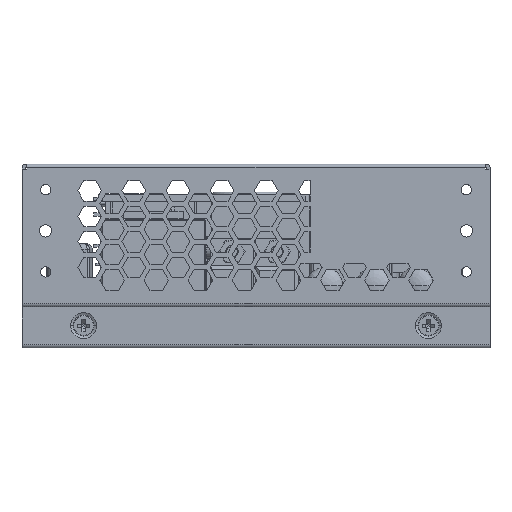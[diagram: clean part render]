
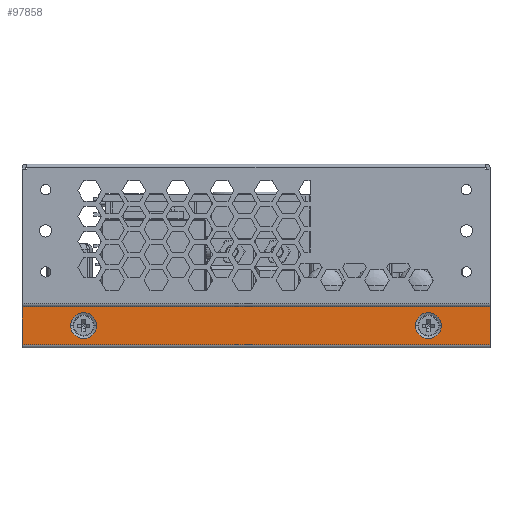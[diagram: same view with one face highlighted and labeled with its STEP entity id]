
A CAD part, front view. The second image highlights one B-rep face of the part: STEP entity #97858.
In plain terms, the highlighted planar face has unit normal (0, -1, 0).
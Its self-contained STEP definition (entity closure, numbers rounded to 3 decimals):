
#96864=DIRECTION('',(0.,0.,-1.));
#96865=VECTOR('',#96864,9.2);
#96866=CARTESIAN_POINT('',(107.9,-6.8,4.1));
#96867=LINE('',#96866,#96865);
#96868=DIRECTION('',(0.,0.,1.));
#96869=VECTOR('',#96868,9.2);
#96870=CARTESIAN_POINT('',(-6.,-6.8,-5.1));
#96871=LINE('',#96870,#96869);
#96872=DIRECTION('',(1.,0.,0.));
#96873=VECTOR('',#96872,113.9);
#96874=CARTESIAN_POINT('',(-6.,-6.8,4.1));
#96875=LINE('',#96874,#96873);
#96876=CARTESIAN_POINT('',(9.,-6.8,-0.5));
#96877=DIRECTION('',(0.,-1.,0.));
#96878=DIRECTION('',(1.,0.,0.));
#96879=AXIS2_PLACEMENT_3D('',#96876,#96877,#96878);
#96881=CARTESIAN_POINT('',(9.,-6.8,-0.5));
#96882=DIRECTION('',(0.,-1.,0.));
#96883=DIRECTION('',(0.,0.,1.));
#96884=AXIS2_PLACEMENT_3D('',#96881,#96882,#96883);
#96886=CARTESIAN_POINT('',(9.,-6.8,-0.5));
#96887=DIRECTION('',(0.,-1.,0.));
#96888=DIRECTION('',(-1.,0.,0.));
#96889=AXIS2_PLACEMENT_3D('',#96886,#96887,#96888);
#96891=CARTESIAN_POINT('',(9.,-6.8,-0.5));
#96892=DIRECTION('',(0.,-1.,0.));
#96893=DIRECTION('',(0.,0.,-1.));
#96894=AXIS2_PLACEMENT_3D('',#96891,#96892,#96893);
#96896=CARTESIAN_POINT('',(92.9,-6.8,-0.5));
#96897=DIRECTION('',(0.,-1.,0.));
#96898=DIRECTION('',(-1.,0.,0.));
#96899=AXIS2_PLACEMENT_3D('',#96896,#96897,#96898);
#96901=CARTESIAN_POINT('',(92.9,-6.8,-0.5));
#96902=DIRECTION('',(0.,-1.,0.));
#96903=DIRECTION('',(0.,0.,-1.));
#96904=AXIS2_PLACEMENT_3D('',#96901,#96902,#96903);
#96906=CARTESIAN_POINT('',(92.9,-6.8,-0.5));
#96907=DIRECTION('',(0.,-1.,0.));
#96908=DIRECTION('',(1.,0.,0.));
#96909=AXIS2_PLACEMENT_3D('',#96906,#96907,#96908);
#96911=CARTESIAN_POINT('',(92.9,-6.8,-0.5));
#96912=DIRECTION('',(0.,-1.,0.));
#96913=DIRECTION('',(0.,0.,1.));
#96914=AXIS2_PLACEMENT_3D('',#96911,#96912,#96913);
#97195=DIRECTION('',(1.,0.,0.));
#97196=VECTOR('',#97195,113.9);
#97197=CARTESIAN_POINT('',(-6.,-6.8,-5.1));
#97198=LINE('',#97197,#97196);
#97531=CARTESIAN_POINT('',(-6.,-6.8,-5.1));
#97532=VERTEX_POINT('',#97531);
#97533=CARTESIAN_POINT('',(-6.,-6.8,4.1));
#97534=VERTEX_POINT('',#97533);
#97535=CARTESIAN_POINT('',(107.9,-6.8,4.1));
#97536=CARTESIAN_POINT('',(107.9,-6.8,-5.1));
#97537=VERTEX_POINT('',#97535);
#97538=VERTEX_POINT('',#97536);
#97539=CARTESIAN_POINT('',(9.,-6.8,2.65));
#97540=CARTESIAN_POINT('',(5.85,-6.8,-0.5));
#97541=VERTEX_POINT('',#97539);
#97542=VERTEX_POINT('',#97540);
#97543=CARTESIAN_POINT('',(12.15,-6.8,-0.5));
#97544=VERTEX_POINT('',#97543);
#97545=CARTESIAN_POINT('',(9.,-6.8,-3.65));
#97546=VERTEX_POINT('',#97545);
#97547=CARTESIAN_POINT('',(92.9,-6.8,-3.65));
#97548=CARTESIAN_POINT('',(96.05,-6.8,-0.5));
#97549=VERTEX_POINT('',#97547);
#97550=VERTEX_POINT('',#97548);
#97551=CARTESIAN_POINT('',(89.75,-6.8,-0.5));
#97552=VERTEX_POINT('',#97551);
#97553=CARTESIAN_POINT('',(92.9,-6.8,2.65));
#97554=VERTEX_POINT('',#97553);
#97824=CARTESIAN_POINT('',(107.9,-6.8,-5.9));
#97825=DIRECTION('',(0.,-1.,0.));
#97826=DIRECTION('',(1.,0.,0.));
#97827=AXIS2_PLACEMENT_3D('',#97824,#97825,#97826);
#97828=PLANE('',#97827);
#97830=ORIENTED_EDGE('',*,*,#97829,.T.);
#97832=ORIENTED_EDGE('',*,*,#97831,.F.);
#97833=ORIENTED_EDGE('',*,*,#97815,.T.);
#97835=ORIENTED_EDGE('',*,*,#97834,.T.);
#97836=EDGE_LOOP('',(#97830,#97832,#97833,#97835));
#97837=FACE_OUTER_BOUND('',#97836,.F.);
#97839=ORIENTED_EDGE('',*,*,#97838,.T.);
#97841=ORIENTED_EDGE('',*,*,#97840,.T.);
#97843=ORIENTED_EDGE('',*,*,#97842,.T.);
#97845=ORIENTED_EDGE('',*,*,#97844,.T.);
#97846=EDGE_LOOP('',(#97839,#97841,#97843,#97845));
#97847=FACE_BOUND('',#97846,.F.);
#97849=ORIENTED_EDGE('',*,*,#97848,.T.);
#97851=ORIENTED_EDGE('',*,*,#97850,.T.);
#97853=ORIENTED_EDGE('',*,*,#97852,.T.);
#97855=ORIENTED_EDGE('',*,*,#97854,.T.);
#97856=EDGE_LOOP('',(#97849,#97851,#97853,#97855));
#97857=FACE_BOUND('',#97856,.F.);
#96880=CIRCLE('',#96879,3.15);
#96885=CIRCLE('',#96884,3.15);
#96890=CIRCLE('',#96889,3.15);
#96895=CIRCLE('',#96894,3.15);
#96900=CIRCLE('',#96899,3.15);
#96905=CIRCLE('',#96904,3.15);
#96910=CIRCLE('',#96909,3.15);
#96915=CIRCLE('',#96914,3.15);
#97815=EDGE_CURVE('',#97532,#97534,#96871,.T.);
#97829=EDGE_CURVE('',#97537,#97538,#96867,.T.);
#97831=EDGE_CURVE('',#97532,#97538,#97198,.T.);
#97834=EDGE_CURVE('',#97534,#97537,#96875,.T.);
#97838=EDGE_CURVE('',#97544,#97541,#96880,.T.);
#97840=EDGE_CURVE('',#97541,#97542,#96885,.T.);
#97842=EDGE_CURVE('',#97542,#97546,#96890,.T.);
#97844=EDGE_CURVE('',#97546,#97544,#96895,.T.);
#97848=EDGE_CURVE('',#97552,#97549,#96900,.T.);
#97850=EDGE_CURVE('',#97549,#97550,#96905,.T.);
#97852=EDGE_CURVE('',#97550,#97554,#96910,.T.);
#97854=EDGE_CURVE('',#97554,#97552,#96915,.T.);
#97858=ADVANCED_FACE('',(#97837,#97847,#97857),#97828,.T.);
